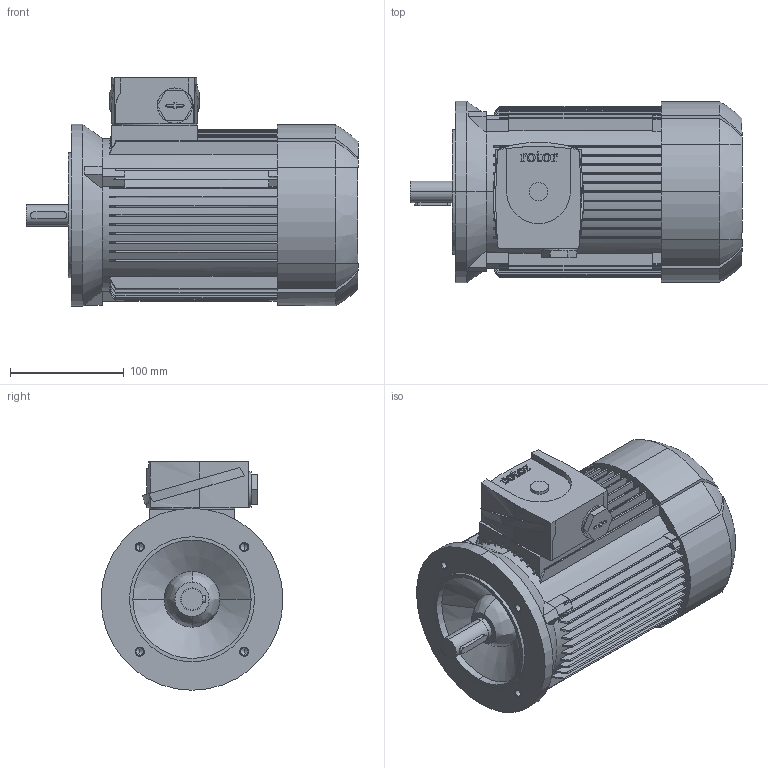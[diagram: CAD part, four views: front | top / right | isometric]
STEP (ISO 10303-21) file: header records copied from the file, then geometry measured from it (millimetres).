
FILE_DESCRIPTION (( 'STEP AP214' ), '1' );
FILE_NAME ('6RN80M04E23 IM3601 FT130.STEP', '2014-09-22T06:32:25', ( 'rbc_ict' ), ( 'REGAL' ), 'SwSTEP 2.0', 'SolidWorks 2012', '' );
FILE_SCHEMA (( 'AUTOMOTIVE_DESIGN' ));
Length unit declared in the file: millimetre
Products named in the file (1): 6RN80M04E23 IM3601 FT130
Bounding box: 292 x 160 x 201 mm (x, y, z)
Volume: 4380199 mm3; surface area: 287083.9 mm2
Topology: 1 solids, 1 shells, 538 faces, 1510 edges, 990 vertices
Faces by surface type: plane 285, cylinder 129, bspline 102, cone 22
Entity records: 20381 total; most frequent: CARTESIAN_POINT 6998, ORIENTED_EDGE 3004, DIRECTION 2525, EDGE_CURVE 1502, VERTEX_POINT 990, LINE 843, VECTOR 843, AXIS2_PLACEMENT_3D 841
